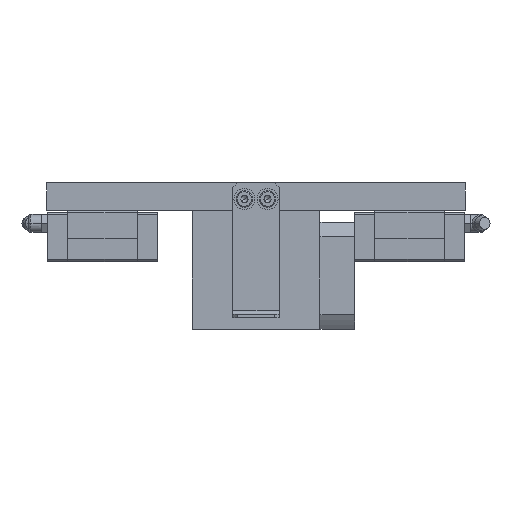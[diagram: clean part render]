
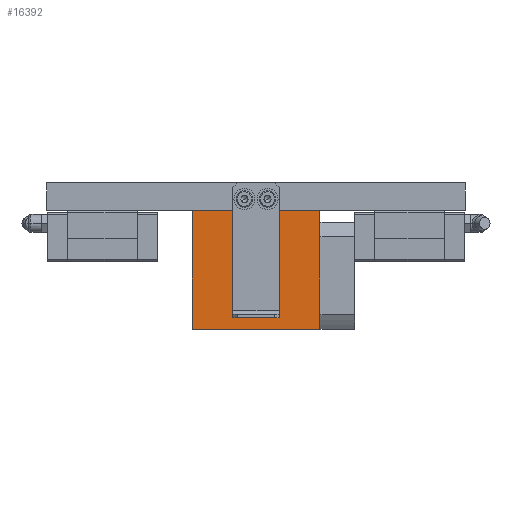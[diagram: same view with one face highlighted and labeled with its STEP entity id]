
A CAD part, left-side view. The second image highlights one B-rep face of the part: STEP entity #16392.
In plain terms, the highlighted planar face has unit normal (-1, 0, 0).
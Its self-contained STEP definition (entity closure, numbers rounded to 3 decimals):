
#725 = DIRECTION ( 'NONE',  ( 0., 0., -1. ) ) ;
#1121 = EDGE_LOOP ( 'NONE', ( #13589, #15666, #1573, #15610 ) ) ;
#1255 = PLANE ( 'NONE',  #2582 ) ;
#1514 = CARTESIAN_POINT ( 'NONE',  ( -41., 0., -27.5 ) ) ;
#1573 = ORIENTED_EDGE ( 'NONE', *, *, #2678, .T. ) ;
#1672 = LINE ( 'NONE', #12063, #13711 ) ;
#1913 = EDGE_CURVE ( 'NONE', #16987, #16769, #16790, .T. ) ;
#2582 = AXIS2_PLACEMENT_3D ( 'NONE', #5290, #4042, #16670 ) ;
#2678 = EDGE_CURVE ( 'NONE', #10655, #16769, #1672, .T. ) ;
#3547 = VECTOR ( 'NONE', #725, 1000. ) ;
#3626 = VECTOR ( 'NONE', #12659, 1000. ) ;
#4042 = DIRECTION ( 'NONE',  ( 1., 0., 0. ) ) ;
#5290 = CARTESIAN_POINT ( 'NONE',  ( -41., 0., 27.5 ) ) ;
#5555 = EDGE_CURVE ( 'NONE', #15482, #16987, #7732, .T. ) ;
#6278 = CARTESIAN_POINT ( 'NONE',  ( -41., 0., 27.5 ) ) ;
#6429 = CARTESIAN_POINT ( 'NONE',  ( -41., 51., -27.5 ) ) ;
#7732 = LINE ( 'NONE', #6278, #3547 ) ;
#8354 = CARTESIAN_POINT ( 'NONE',  ( -41., 0., -27.5 ) ) ;
#8841 = FACE_OUTER_BOUND ( 'NONE', #1121, .T. ) ;
#10655 = VERTEX_POINT ( 'NONE', #18147 ) ;
#10682 = EDGE_CURVE ( 'NONE', #10655, #15482, #15036, .T. ) ;
#11190 = DIRECTION ( 'NONE',  ( 0., -1., 0. ) ) ;
#11343 = VECTOR ( 'NONE', #11190, 1000. ) ;
#11948 = DIRECTION ( 'NONE',  ( 0., 0., -1. ) ) ;
#12063 = CARTESIAN_POINT ( 'NONE',  ( -41., 51., 27.5 ) ) ;
#12659 = DIRECTION ( 'NONE',  ( 0., 1., 0. ) ) ;
#13589 = ORIENTED_EDGE ( 'NONE', *, *, #5555, .F. ) ;
#13711 = VECTOR ( 'NONE', #11948, 1000. ) ;
#13752 = CARTESIAN_POINT ( 'NONE',  ( -41., 0., 27.5 ) ) ;
#15036 = LINE ( 'NONE', #13752, #11343 ) ;
#15482 = VERTEX_POINT ( 'NONE', #16837 ) ;
#15610 = ORIENTED_EDGE ( 'NONE', *, *, #1913, .F. ) ;
#15666 = ORIENTED_EDGE ( 'NONE', *, *, #10682, .F. ) ;
#16392 = ADVANCED_FACE ( 'NONE', ( #8841 ), #1255, .F. ) ;
#16670 = DIRECTION ( 'NONE',  ( 0., 0., -1. ) ) ;
#16769 = VERTEX_POINT ( 'NONE', #6429 ) ;
#16790 = LINE ( 'NONE', #1514, #3626 ) ;
#16837 = CARTESIAN_POINT ( 'NONE',  ( -41., 0., 27.5 ) ) ;
#16987 = VERTEX_POINT ( 'NONE', #8354 ) ;
#18147 = CARTESIAN_POINT ( 'NONE',  ( -41., 51., 27.5 ) ) ;
